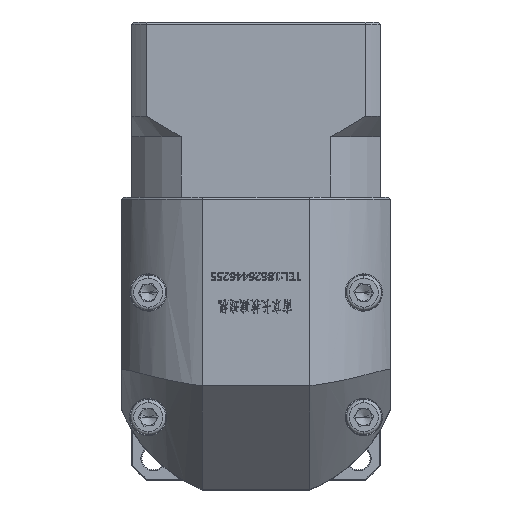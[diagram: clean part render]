
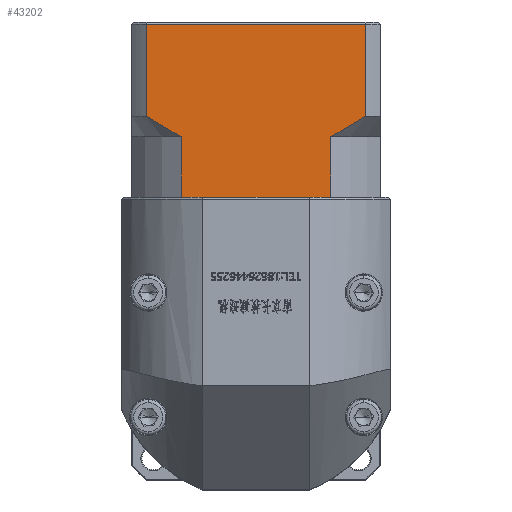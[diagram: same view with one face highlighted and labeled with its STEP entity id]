
A CAD part, top view. The second image highlights one B-rep face of the part: STEP entity #43202.
In plain terms, the highlighted planar face has unit normal (0, 0, 1).
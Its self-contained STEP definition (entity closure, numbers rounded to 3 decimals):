
#1467 = VECTOR ( 'NONE', #140326, 1000. ) ;
#1568 = CARTESIAN_POINT ( 'NONE',  ( -26.195, 90.873, 200.65 ) ) ;
#3998 = ORIENTED_EDGE ( 'NONE', *, *, #5639, .F. ) ;
#5639 = EDGE_CURVE ( 'NONE', #98231, #100526, #21229, .T. ) ;
#6360 = DIRECTION ( 'NONE',  ( 0., 1., 0. ) ) ;
#8539 = FACE_OUTER_BOUND ( 'NONE', #61599, .T. ) ;
#13677 = ORIENTED_EDGE ( 'NONE', *, *, #135676, .T. ) ;
#13870 = DIRECTION ( 'NONE',  ( 0., 1., 0. ) ) ;
#16384 = VECTOR ( 'NONE', #63006, 1000. ) ;
#17269 = CARTESIAN_POINT ( 'NONE',  ( -22.652, 68.173, 200.65 ) ) ;
#18381 = VERTEX_POINT ( 'NONE', #144229 ) ;
#21093 = ORIENTED_EDGE ( 'NONE', *, *, #132695, .F. ) ;
#21229 = LINE ( 'NONE', #129340, #115172 ) ;
#21420 = CARTESIAN_POINT ( 'NONE',  ( -26.195, 48.673, 200.65 ) ) ;
#21842 = DIRECTION ( 'NONE',  ( 0., -1., 0. ) ) ;
#25581 = CARTESIAN_POINT ( 'NONE',  ( 21.833, 63.173, 200.65 ) ) ;
#26913 = ORIENTED_EDGE ( 'NONE', *, *, #118193, .T. ) ;
#27330 = ORIENTED_EDGE ( 'NONE', *, *, #123553, .T. ) ;
#30952 = CARTESIAN_POINT ( 'NONE',  ( -22.652, 90.373, 200.65 ) ) ;
#31764 = CARTESIAN_POINT ( 'NONE',  ( -21.292, 67.274, 200.65 ) ) ;
#33859 = LINE ( 'NONE', #125977, #127782 ) ;
#34085 = LINE ( 'NONE', #103553, #1467 ) ;
#34469 = ORIENTED_EDGE ( 'NONE', *, *, #145102, .T. ) ;
#37838 = CARTESIAN_POINT ( 'NONE',  ( 27.52, 66.398, 200.65 ) ) ;
#39614 = B_SPLINE_CURVE_WITH_KNOTS ( 'NONE', 3,
 ( #98962, #146969, #111288, #37838, #123602, #50127 ),
 .UNSPECIFIED., .F., .F.,
 ( 4, 2, 4 ),
 ( 0.1, 0.104, 0.109 ),
 .UNSPECIFIED. ) ;
#42867 = LINE ( 'NONE', #132358, #108169 ) ;
#43097 = B_SPLINE_CURVE_WITH_KNOTS ( 'NONE', 3,
 ( #141441, #31764, #142537, #69275, #154618, #81610 ),
 .UNSPECIFIED., .F., .F.,
 ( 4, 2, 4 ),
 ( 0.052, 0.057, 0.062 ),
 .UNSPECIFIED. ) ;
#43202 = ADVANCED_FACE ( 'NONE', ( #8539 ), #99107, .F. ) ;
#47926 = ORIENTED_EDGE ( 'NONE', *, *, #114393, .F. ) ;
#50127 = CARTESIAN_POINT ( 'NONE',  ( 30.263, 68.173, 200.65 ) ) ;
#51173 = EDGE_CURVE ( 'NONE', #97164, #79981, #139478, .T. ) ;
#55469 = ORIENTED_EDGE ( 'NONE', *, *, #137494, .T. ) ;
#57156 = EDGE_CURVE ( 'NONE', #97164, #100526, #110364, .T. ) ;
#61599 = EDGE_LOOP ( 'NONE', ( #157046, #157468, #3998, #13677, #21093, #26913, #27330, #34469, #47926, #55469 ) ) ;
#63006 = DIRECTION ( 'NONE',  ( -1., 0., 0. ) ) ;
#69275 = CARTESIAN_POINT ( 'NONE',  ( -17.106, 64.725, 200.65 ) ) ;
#71130 = CARTESIAN_POINT ( 'NONE',  ( 30.263, 63.173, 200.65 ) ) ;
#74430 = VECTOR ( 'NONE', #21842, 1000. ) ;
#79234 = CARTESIAN_POINT ( 'NONE',  ( 30.263, 68.173, 200.65 ) ) ;
#79981 = VERTEX_POINT ( 'NONE', #79234 ) ;
#81610 = CARTESIAN_POINT ( 'NONE',  ( -14.222, 63.173, 200.65 ) ) ;
#87333 = DIRECTION ( 'NONE',  ( 0., 0., -1. ) ) ;
#89558 = LINE ( 'NONE', #21420, #154343 ) ;
#97164 = VERTEX_POINT ( 'NONE', #135250 ) ;
#98231 = VERTEX_POINT ( 'NONE', #17269 ) ;
#98962 = CARTESIAN_POINT ( 'NONE',  ( 21.833, 63.173, 200.65 ) ) ;
#99107 = PLANE ( 'NONE',  #158139 ) ;
#100410 = CARTESIAN_POINT ( 'NONE',  ( -26.195, 48.673, 200.65 ) ) ;
#100526 = VERTEX_POINT ( 'NONE', #30952 ) ;
#102663 = VERTEX_POINT ( 'NONE', #126937 ) ;
#103553 = CARTESIAN_POINT ( 'NONE',  ( 21.833, 63.173, 200.65 ) ) ;
#103736 = VERTEX_POINT ( 'NONE', #151133 ) ;
#107192 = DIRECTION ( 'NONE',  ( 1., 0., 0. ) ) ;
#107433 = VERTEX_POINT ( 'NONE', #136750 ) ;
#108169 = VECTOR ( 'NONE', #144023, 1000. ) ;
#110364 = LINE ( 'NONE', #136344, #16384 ) ;
#111288 = CARTESIAN_POINT ( 'NONE',  ( 24.715, 64.724, 200.65 ) ) ;
#111984 = DIRECTION ( 'NONE',  ( 0., 1., 0. ) ) ;
#112050 = VECTOR ( 'NONE', #112731, 1000. ) ;
#112731 = DIRECTION ( 'NONE',  ( 1., 0., 0. ) ) ;
#112942 = VERTEX_POINT ( 'NONE', #25581 ) ;
#114393 = EDGE_CURVE ( 'NONE', #112942, #103736, #34085, .T. ) ;
#115172 = VECTOR ( 'NONE', #111984, 1000. ) ;
#115890 = LINE ( 'NONE', #100410, #112050 ) ;
#118193 = EDGE_CURVE ( 'NONE', #18381, #107433, #115890, .T. ) ;
#123553 = EDGE_CURVE ( 'NONE', #107433, #102663, #42867, .T. ) ;
#123602 = CARTESIAN_POINT ( 'NONE',  ( 28.9, 67.272, 200.65 ) ) ;
#125977 = CARTESIAN_POINT ( 'NONE',  ( -14.222, 63.173, 200.65 ) ) ;
#126937 = CARTESIAN_POINT ( 'NONE',  ( 20.842, 48.673, 200.65 ) ) ;
#127782 = VECTOR ( 'NONE', #6360, 1000. ) ;
#129340 = CARTESIAN_POINT ( 'NONE',  ( -22.652, 63.173, 200.65 ) ) ;
#132358 = CARTESIAN_POINT ( 'NONE',  ( -26.195, 48.673, 200.65 ) ) ;
#132695 = EDGE_CURVE ( 'NONE', #18381, #133965, #33859, .T. ) ;
#133965 = VERTEX_POINT ( 'NONE', #158365 ) ;
#135250 = CARTESIAN_POINT ( 'NONE',  ( 30.263, 90.373, 200.65 ) ) ;
#135676 = EDGE_CURVE ( 'NONE', #98231, #133965, #43097, .T. ) ;
#136344 = CARTESIAN_POINT ( 'NONE',  ( -26.195, 90.373, 200.65 ) ) ;
#136750 = CARTESIAN_POINT ( 'NONE',  ( -13.231, 48.673, 200.65 ) ) ;
#137494 = EDGE_CURVE ( 'NONE', #112942, #79981, #39614, .T. ) ;
#139478 = LINE ( 'NONE', #71130, #74430 ) ;
#140326 = DIRECTION ( 'NONE',  ( 0., -1., 0. ) ) ;
#141441 = CARTESIAN_POINT ( 'NONE',  ( -22.652, 68.173, 200.65 ) ) ;
#142537 = CARTESIAN_POINT ( 'NONE',  ( -19.914, 66.401, 200.65 ) ) ;
#144023 = DIRECTION ( 'NONE',  ( 1., 0., 0. ) ) ;
#144229 = CARTESIAN_POINT ( 'NONE',  ( -14.222, 48.673, 200.65 ) ) ;
#145102 = EDGE_CURVE ( 'NONE', #102663, #103736, #89558, .T. ) ;
#146969 = CARTESIAN_POINT ( 'NONE',  ( 23.29, 63.924, 200.65 ) ) ;
#151133 = CARTESIAN_POINT ( 'NONE',  ( 21.833, 48.673, 200.65 ) ) ;
#154343 = VECTOR ( 'NONE', #107192, 1000. ) ;
#154618 = CARTESIAN_POINT ( 'NONE',  ( -15.674, 63.921, 200.65 ) ) ;
#157046 = ORIENTED_EDGE ( 'NONE', *, *, #51173, .F. ) ;
#157468 = ORIENTED_EDGE ( 'NONE', *, *, #57156, .T. ) ;
#158139 = AXIS2_PLACEMENT_3D ( 'NONE', #1568, #87333, #13870 ) ;
#158365 = CARTESIAN_POINT ( 'NONE',  ( -14.222, 63.173, 200.65 ) ) ;
